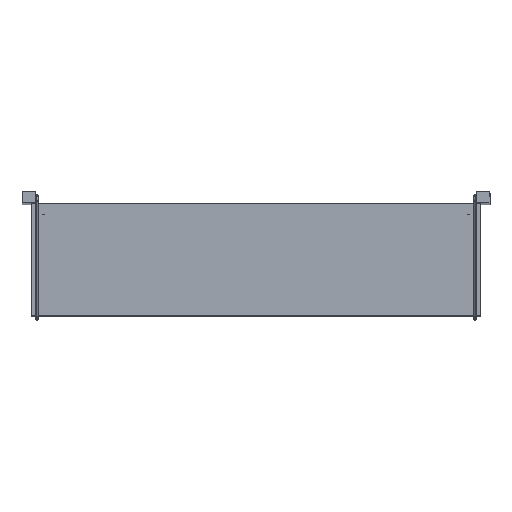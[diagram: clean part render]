
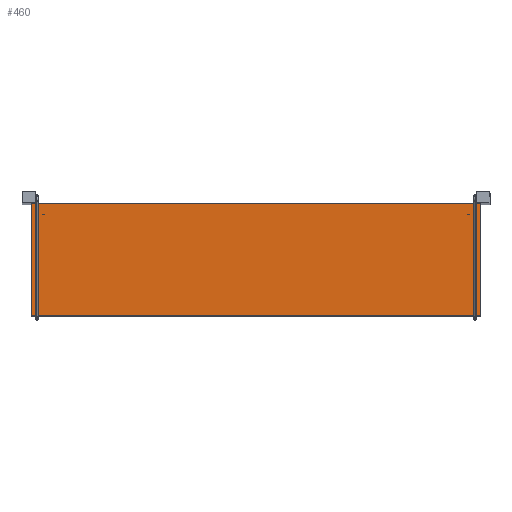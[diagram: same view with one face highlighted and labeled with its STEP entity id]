
A CAD part, top view. The second image highlights one B-rep face of the part: STEP entity #460.
In plain terms, the highlighted planar face has unit normal (0, 0, 1).
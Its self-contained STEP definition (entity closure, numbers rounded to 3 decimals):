
#460=ADVANCED_FACE('',(#1300),#11628,.T.);
#1300=FACE_OUTER_BOUND('',#2146,.T.);
#2146=EDGE_LOOP('',(#3302,#3303,#3304,#3305));
#3302=ORIENTED_EDGE('',*,*,#6889,.F.);
#3303=ORIENTED_EDGE('',*,*,#6886,.F.);
#3304=ORIENTED_EDGE('',*,*,#6884,.F.);
#3305=ORIENTED_EDGE('',*,*,#6880,.F.);
#6880=EDGE_CURVE('',#10496,#10497,#8676,.T.);
#6884=EDGE_CURVE('',#10497,#10498,#8680,.T.);
#6886=EDGE_CURVE('',#10498,#10501,#8682,.T.);
#6889=EDGE_CURVE('',#10501,#10496,#8685,.T.);
#8676=B_SPLINE_CURVE_WITH_KNOTS('',1,(#14231,#14232),.UNSPECIFIED.,.F.,
 .F.,(2,2),(0.,200.),.UNSPECIFIED.);
#8680=B_SPLINE_CURVE_WITH_KNOTS('',1,(#14239,#14240),.UNSPECIFIED.,.F.,
 .F.,(2,2),(0.,800.),.UNSPECIFIED.);
#8682=B_SPLINE_CURVE_WITH_KNOTS('',1,(#14243,#14244),.UNSPECIFIED.,.F.,
 .F.,(2,2),(0.,200.),.UNSPECIFIED.);
#8685=B_SPLINE_CURVE_WITH_KNOTS('',1,(#14249,#14250),.UNSPECIFIED.,.F.,
 .F.,(2,2),(0.,800.),.UNSPECIFIED.);
#10496=VERTEX_POINT('',#14137);
#10497=VERTEX_POINT('',#14138);
#10498=VERTEX_POINT('',#14139);
#10501=VERTEX_POINT('',#14142);
#11628=PLANE('',#12626);
#12626=AXIS2_PLACEMENT_3D('',#14103,#13362,$);
#13362=DIRECTION('',(0.,0.,1.));
#14103=CARTESIAN_POINT('',(480.012,118.58,1513.));
#14137=CARTESIAN_POINT('',(400.,98.568,1513.));
#14138=CARTESIAN_POINT('',(400.,-101.432,1513.));
#14139=CARTESIAN_POINT('',(-400.,-101.432,1513.));
#14142=CARTESIAN_POINT('',(-400.,98.568,1513.));
#14231=CARTESIAN_POINT('',(400.,98.568,1513.));
#14232=CARTESIAN_POINT('',(400.,-101.432,1513.));
#14239=CARTESIAN_POINT('',(400.,-101.432,1513.));
#14240=CARTESIAN_POINT('',(-400.,-101.432,1513.));
#14243=CARTESIAN_POINT('',(-400.,-101.432,1513.));
#14244=CARTESIAN_POINT('',(-400.,98.568,1513.));
#14249=CARTESIAN_POINT('',(-400.,98.568,1513.));
#14250=CARTESIAN_POINT('',(400.,98.568,1513.));
